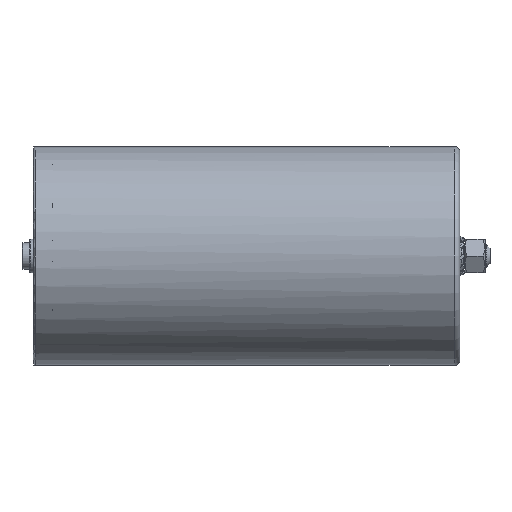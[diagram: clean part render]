
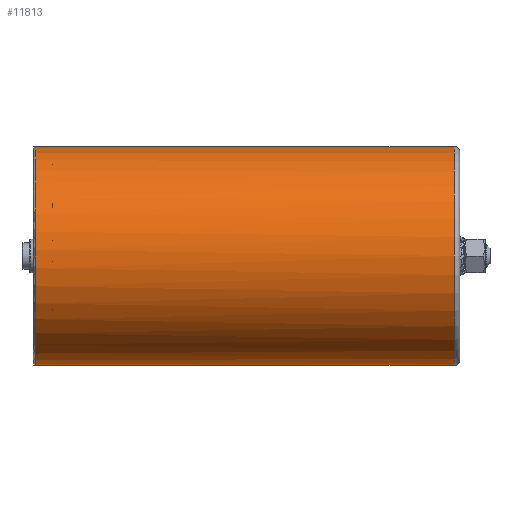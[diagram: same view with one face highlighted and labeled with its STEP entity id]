
A CAD part, left-side view. The second image highlights one B-rep face of the part: STEP entity #11813.
In plain terms, the highlighted cylindrical face has radius 58 mm (diameter 116 mm), a partial arc.
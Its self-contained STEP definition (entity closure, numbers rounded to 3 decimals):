
#77 = VERTEX_POINT ( 'NONE', #2310 ) ;
#547 = DIRECTION ( 'NONE',  ( 0., -1., 0. ) ) ;
#610 = DIRECTION ( 'NONE',  ( 0., 0., -1. ) ) ;
#797 = ORIENTED_EDGE ( 'NONE', *, *, #9243, .F. ) ;
#1173 = DIRECTION ( 'NONE',  ( 0., -1., 0. ) ) ;
#1380 = CARTESIAN_POINT ( 'NONE',  ( 0., 216., 0. ) ) ;
#1387 = CARTESIAN_POINT ( 'NONE',  ( -41.012, 225., -41.012 ) ) ;
#2054 = CARTESIAN_POINT ( 'NONE',  ( 0., 3., 0. ) ) ;
#2235 = EDGE_CURVE ( 'NONE', #77, #5082, #8217, .T. ) ;
#2310 = CARTESIAN_POINT ( 'NONE',  ( 0., 3., -58. ) ) ;
#2468 = DIRECTION ( 'NONE',  ( 0., 1., 0. ) ) ;
#2584 = FACE_OUTER_BOUND ( 'NONE', #11931, .T. ) ;
#2854 = CARTESIAN_POINT ( 'NONE',  ( 0., 3., 58. ) ) ;
#3227 = ORIENTED_EDGE ( 'NONE', *, *, #7921, .T. ) ;
#3335 = EDGE_CURVE ( 'NONE', #12167, #7758, #7957, .T. ) ;
#3938 = VERTEX_POINT ( 'NONE', #5027 ) ;
#3947 = DIRECTION ( 'NONE',  ( 0., -1., 0. ) ) ;
#3950 = VECTOR ( 'NONE', #3947, 1000. ) ;
#5027 = CARTESIAN_POINT ( 'NONE',  ( 0., 225., -58. ) ) ;
#5060 = DIRECTION ( 'NONE',  ( -0.707, 0., -0.707 ) ) ;
#5082 = VERTEX_POINT ( 'NONE', #2854 ) ;
#5144 = AXIS2_PLACEMENT_3D ( 'NONE', #2054, #2468, #5949 ) ;
#5949 = DIRECTION ( 'NONE',  ( 0., 0., 1. ) ) ;
#5973 = DIRECTION ( 'NONE',  ( 0., -1., 0. ) ) ;
#6023 = CARTESIAN_POINT ( 'NONE',  ( 0., 225., 0. ) ) ;
#6029 = ORIENTED_EDGE ( 'NONE', *, *, #3335, .T. ) ;
#6035 = CARTESIAN_POINT ( 'NONE',  ( 0., 225., 0. ) ) ;
#6153 = AXIS2_PLACEMENT_3D ( 'NONE', #6035, #5973, #10899 ) ;
#6494 = CYLINDRICAL_SURFACE ( 'NONE', #6648, 58. ) ;
#6636 = CARTESIAN_POINT ( 'NONE',  ( 0., 216., -58. ) ) ;
#6648 = AXIS2_PLACEMENT_3D ( 'NONE', #1380, #547, #610 ) ;
#6761 = LINE ( 'NONE', #6636, #3950 ) ;
#6951 = LINE ( 'NONE', #7913, #7014 ) ;
#7014 = VECTOR ( 'NONE', #12247, 1000. ) ;
#7758 = VERTEX_POINT ( 'NONE', #1387 ) ;
#7913 = CARTESIAN_POINT ( 'NONE',  ( 0., 216., 58. ) ) ;
#7921 = EDGE_CURVE ( 'NONE', #7758, #3938, #10436, .T. ) ;
#7957 = CIRCLE ( 'NONE', #8975, 58. ) ;
#8217 = CIRCLE ( 'NONE', #5144, 58. ) ;
#8975 = AXIS2_PLACEMENT_3D ( 'NONE', #6023, #1173, #5060 ) ;
#9119 = EDGE_CURVE ( 'NONE', #3938, #77, #6761, .T. ) ;
#9243 = EDGE_CURVE ( 'NONE', #12167, #5082, #6951, .T. ) ;
#10164 = ORIENTED_EDGE ( 'NONE', *, *, #2235, .T. ) ;
#10303 = CARTESIAN_POINT ( 'NONE',  ( 0., 225., 58. ) ) ;
#10436 = CIRCLE ( 'NONE', #6153, 58. ) ;
#10455 = ORIENTED_EDGE ( 'NONE', *, *, #9119, .T. ) ;
#10899 = DIRECTION ( 'NONE',  ( -0.707, 0., -0.707 ) ) ;
#11813 = ADVANCED_FACE ( 'NONE', ( #2584 ), #6494, .T. ) ;
#11931 = EDGE_LOOP ( 'NONE', ( #797, #6029, #3227, #10455, #10164 ) ) ;
#12167 = VERTEX_POINT ( 'NONE', #10303 ) ;
#12247 = DIRECTION ( 'NONE',  ( 0., -1., 0. ) ) ;
